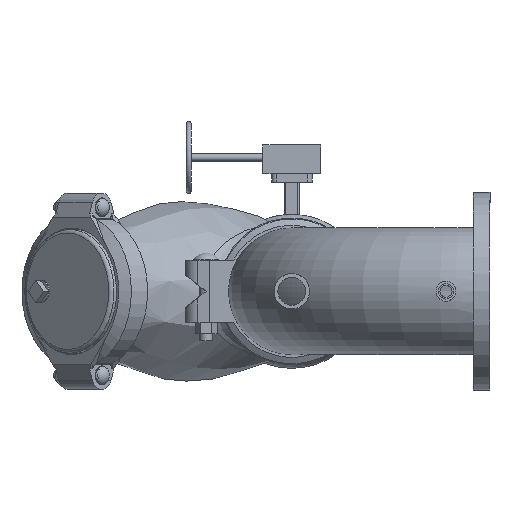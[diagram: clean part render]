
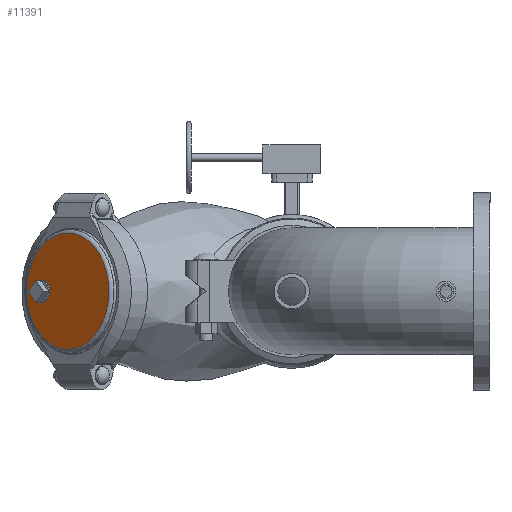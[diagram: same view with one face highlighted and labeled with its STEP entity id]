
A CAD part, front view. The second image highlights one B-rep face of the part: STEP entity #11391.
In plain terms, the highlighted planar face has unit normal (-0.707, -0.707, 0) as drawn and (1, 0, 0) by its records, which use the part's own axes.
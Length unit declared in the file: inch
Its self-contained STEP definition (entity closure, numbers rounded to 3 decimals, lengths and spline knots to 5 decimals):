
#2224=FACE_BOUND('',#3254,.T.);
#2586=FACE_OUTER_BOUND('',#3253,.T.);
#3253=EDGE_LOOP('',(#8368,#8369));
#3254=EDGE_LOOP('',(#8370));
#3924=CIRCLE('',#12557,0.75);
#3932=CIRCLE('',#12568,3.9705);
#3933=CIRCLE('',#12569,3.9705);
#4760=VERTEX_POINT('',#22241);
#4768=VERTEX_POINT('',#22262);
#4769=VERTEX_POINT('',#22263);
#6061=EDGE_CURVE('',#4760,#4760,#3924,.T.);
#6070=EDGE_CURVE('',#4768,#4769,#3932,.T.);
#6071=EDGE_CURVE('',#4769,#4768,#3933,.T.);
#8368=ORIENTED_EDGE('',*,*,#6070,.T.);
#8369=ORIENTED_EDGE('',*,*,#6071,.T.);
#8370=ORIENTED_EDGE('',*,*,#6061,.T.);
#10281=PLANE('',#12571);
#11391=ADVANCED_FACE('',(#2586,#2224),#10281,.T.);
#12557=AXIS2_PLACEMENT_3D('',#22243,#14741,#14742);
#12568=AXIS2_PLACEMENT_3D('',#22264,#14764,#14765);
#12569=AXIS2_PLACEMENT_3D('',#22265,#14766,#14767);
#12571=AXIS2_PLACEMENT_3D('',#22267,#14770,#14771);
#14741=DIRECTION('center_axis',(-1.,0.,0.));
#14742=DIRECTION('ref_axis',(0.,0.,1.));
#14764=DIRECTION('center_axis',(1.,0.,0.));
#14765=DIRECTION('ref_axis',(0.,0.,-1.));
#14766=DIRECTION('center_axis',(1.,0.,0.));
#14767=DIRECTION('ref_axis',(0.,0.,-1.));
#14770=DIRECTION('center_axis',(1.,0.,0.));
#14771=DIRECTION('ref_axis',(0.,0.,-1.));
#22241=CARTESIAN_POINT('',(1.57,2.5,-0.75));
#22243=CARTESIAN_POINT('Origin',(1.57,2.5,0.));
#22262=CARTESIAN_POINT('',(1.57,3.9705,0.));
#22263=CARTESIAN_POINT('',(1.57,0.,3.9705));
#22264=CARTESIAN_POINT('Origin',(1.57,0.,0.));
#22265=CARTESIAN_POINT('Origin',(1.57,0.,0.));
#22267=CARTESIAN_POINT('Origin',(1.57,0.,0.));
